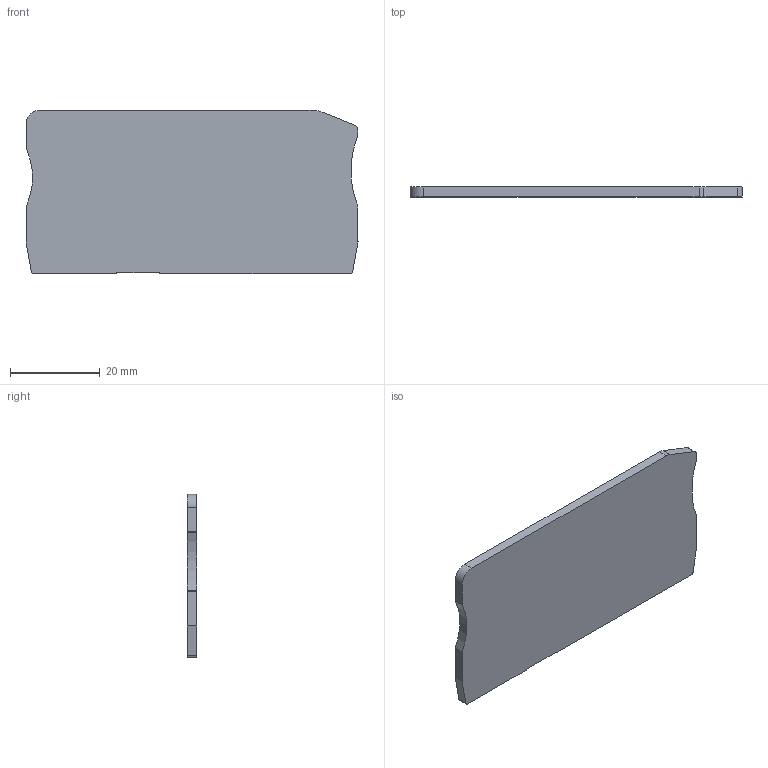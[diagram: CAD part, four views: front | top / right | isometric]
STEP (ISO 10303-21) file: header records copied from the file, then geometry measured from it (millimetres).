
FILE_DESCRIPTION( ('This file contains a STEP AP42 implementation' ,'as created by ZW3D STEP Interface translator.') ,'2;1' );
FILE_NAME( 'D-RPV6-TWIN 傷啣耀倰.STEP' ,'221111.13 733', (''), ('ZWCAD Software Co.'), 'Version 1.0', 'ZW3D to STEP translator', '' );
FILE_SCHEMA(('AUTOMOTIVE_DESIGN { 1 0 10303 214 1 1 1 1 }'));
Length unit declared in the file: millimetre
Products named in the file (2): 0; D-RPV6-TWIN 傷啣耀倰
Bounding box: 74.17 x 2.2 x 36.5 mm (x, y, z)
Volume: 5825.1 mm3; surface area: 5769.4 mm2
Topology: 1 solids, 1 shells, 28 faces, 78 edges, 52 vertices
Faces by surface type: plane 15, cylinder 13
Entity records: 966 total; most frequent: DIRECTION 162, CARTESIAN_POINT 159, ORIENTED_EDGE 156, EDGE_CURVE 78, AXIS2_PLACEMENT_3D 55, VERTEX_POINT 52, VECTOR 52, LINE 52
